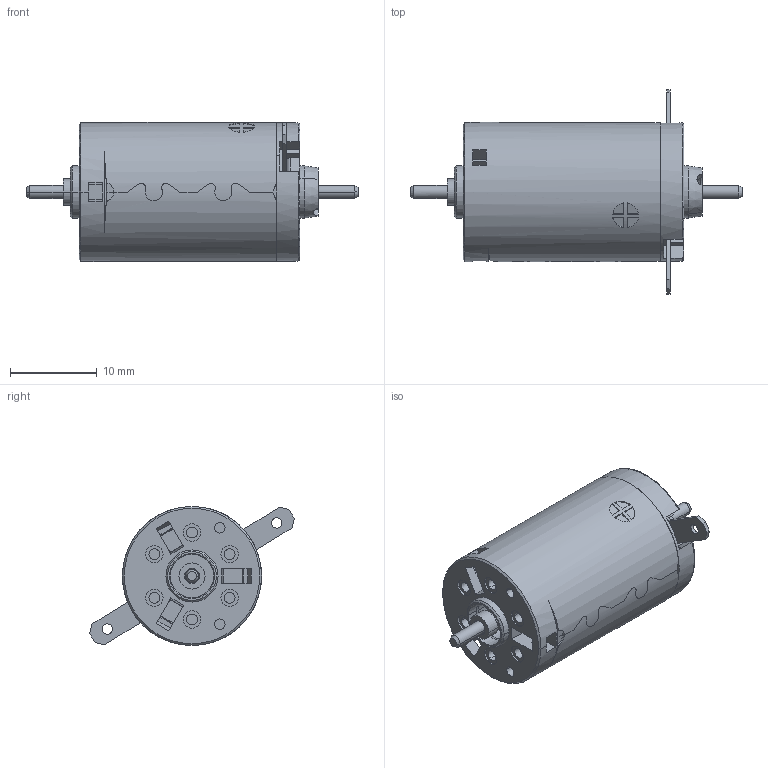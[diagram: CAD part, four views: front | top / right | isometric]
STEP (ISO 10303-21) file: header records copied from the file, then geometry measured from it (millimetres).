
FILE_DESCRIPTION((''),'2;1');
FILE_NAME('110051_AMAX16_EB_1_2W_SL_2WE','2016-10-14T',('mmagvisi'),(''),'CREO PARAMETRIC BY PTC INC, 2016050','CREO PARAMETRIC BY PTC INC, 2016050','');
FILE_SCHEMA(('CONFIG_CONTROL_DESIGN'));
Length unit declared in the file: millimetre
Products named in the file (1): 110051_AMAX16_EB_1_2W_SL_2WE
Bounding box: 38.2 x 23.53 x 16 mm (x, y, z)
Volume: 4919.2 mm3; surface area: 2893.1 mm2
Topology: 1 solids, 1 shells, 496 faces, 1455 edges, 946 vertices
Faces by surface type: plane 294, cylinder 152, cone 44, bspline 4, torus 2
Entity records: 22286 total; most frequent: CARTESIAN_POINT 4391, ORIENTED_EDGE 2906, DIRECTION 2730, PRESENTATION_STYLE_ASSIGNMENT 1454, STYLED_ITEM 1454, CURVE_STYLE 1453, EDGE_CURVE 1453, VERTEX_POINT 946
